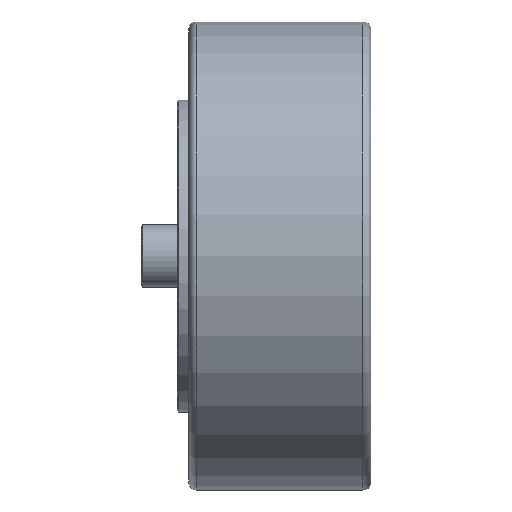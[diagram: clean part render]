
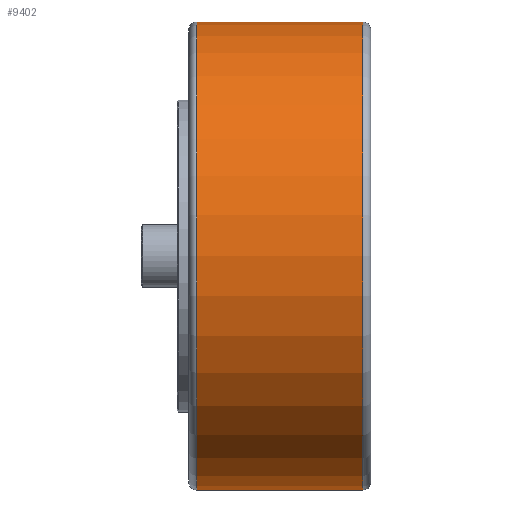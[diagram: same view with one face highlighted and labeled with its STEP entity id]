
A CAD part, top view. The second image highlights one B-rep face of the part: STEP entity #9402.
In plain terms, the highlighted cylindrical face has radius 90 mm (diameter 180 mm), a partial arc.
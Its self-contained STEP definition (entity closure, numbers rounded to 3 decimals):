
#9130=CARTESIAN_POINT('',(-67.,0.,0.));
#9131=DIRECTION('',(1.,0.,0.));
#9132=DIRECTION('',(0.,1.,0.));
#9133=AXIS2_PLACEMENT_3D('',#9130,#9131,#9132);
#9146=DIRECTION('',(-1.,0.,0.));
#9147=VECTOR('',#9146,64.);
#9148=CARTESIAN_POINT('',(-3.,90.,0.));
#9149=LINE('',#9148,#9147);
#9153=CARTESIAN_POINT('',(-3.,0.,0.));
#9154=DIRECTION('',(1.,0.,0.));
#9155=DIRECTION('',(0.,1.,0.));
#9156=AXIS2_PLACEMENT_3D('',#9153,#9154,#9155);
#9161=DIRECTION('',(-1.,0.,0.));
#9162=VECTOR('',#9161,64.);
#9163=CARTESIAN_POINT('',(-3.,-90.,0.));
#9164=LINE('',#9163,#9162);
#9254=CARTESIAN_POINT('',(-3.,90.,0.));
#9255=CARTESIAN_POINT('',(-67.,90.,0.));
#9256=VERTEX_POINT('',#9254);
#9257=VERTEX_POINT('',#9255);
#9262=CARTESIAN_POINT('',(-3.,-90.,0.));
#9263=CARTESIAN_POINT('',(-67.,-90.,0.));
#9264=VERTEX_POINT('',#9262);
#9265=VERTEX_POINT('',#9263);
#9388=CARTESIAN_POINT('',(3.5,0.,0.));
#9389=DIRECTION('',(-1.,0.,0.));
#9390=DIRECTION('',(0.,1.,0.));
#9391=AXIS2_PLACEMENT_3D('',#9388,#9389,#9390);
#9392=CYLINDRICAL_SURFACE('',#9391,90.);
#9394=ORIENTED_EDGE('',*,*,#9393,.F.);
#9396=ORIENTED_EDGE('',*,*,#9395,.T.);
#9398=ORIENTED_EDGE('',*,*,#9397,.T.);
#9399=ORIENTED_EDGE('',*,*,#9381,.F.);
#9400=EDGE_LOOP('',(#9394,#9396,#9398,#9399));
#9401=FACE_OUTER_BOUND('',#9400,.F.);
#9134=CIRCLE('',#9133,90.);
#9157=CIRCLE('',#9156,90.);
#9381=EDGE_CURVE('',#9257,#9265,#9134,.T.);
#9393=EDGE_CURVE('',#9256,#9257,#9149,.T.);
#9395=EDGE_CURVE('',#9256,#9264,#9157,.T.);
#9397=EDGE_CURVE('',#9264,#9265,#9164,.T.);
#9402=ADVANCED_FACE('',(#9401),#9392,.T.);
